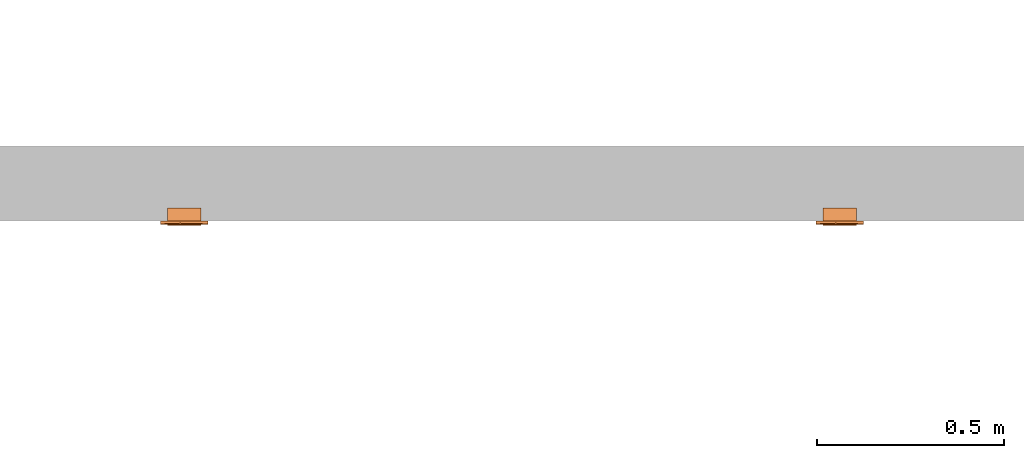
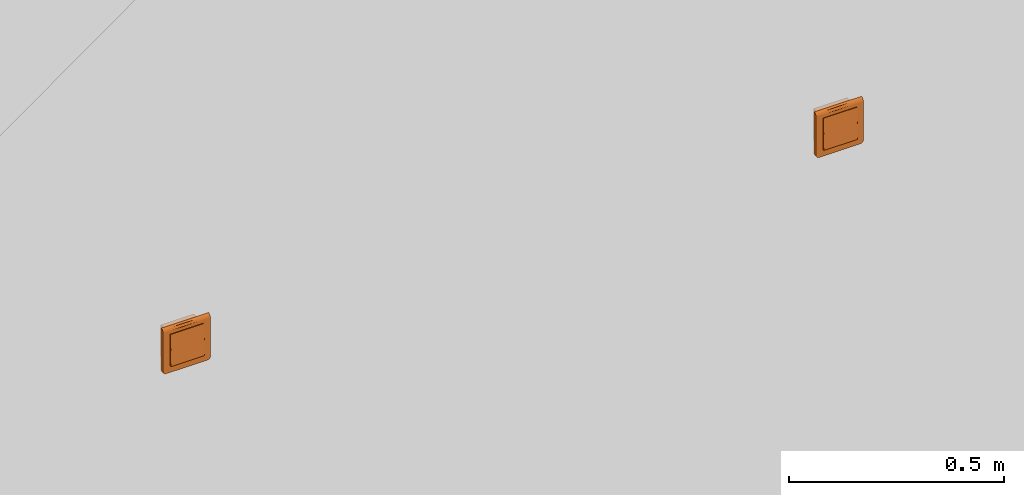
# One storey, part 184 of 197: 2 proxies.
"""IFC2X3 building model written with IfcOpenShell, lengths in metres."""

from ifc_helpers import new_model, entity, si_unit, converted_unit, direction, frame, origin, place, context, subcontext, project, spatial, faceted_brep, source, transform, mapped, material, material_list, type_object, type_shapes, element, save


model = new_model("IFC2X3")

# Units and contexts
model_context = context("Model", 3, precision=1e-05, world=origin(), true_north=direction((6.123031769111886e-17, 1.0)))
body_context = subcontext(model_context, "Body", "Model", "MODEL_VIEW")
ifc_project = project(units=[si_unit("LENGTHUNIT", "METRE"), converted_unit("PLANEANGLEUNIT", "DEGREE", entity("IfcPlaneAngleMeasure", 0.017453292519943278), si_unit("PLANEANGLEUNIT", "RADIAN"), dimensions=[0, 0, 0, 0, 0, 0, 0]), si_unit("AREAUNIT", "SQUARE_METRE")], contexts=[model_context])

# Site, building, storey
site_placement = place(None, origin())
site = spatial("IfcSite", under=ifc_project, at=site_placement, Name="Default", CompositionType="ELEMENT")
building_placement = place(site_placement, origin())
building = spatial("IfcBuilding", under=site, at=building_placement, CompositionType="ELEMENT")
storey_placement = place(building_placement, origin())
storey = spatial("IfcBuildingStorey", under=building, at=storey_placement, Name="Niveau 0", CompositionType="ELEMENT", Elevation=0.0)

# Proxies
ifc_material_1 = material(Name="<Unnamed>")
ifc_material_2 = material(Name="BETCE-DOIGT-BLANC")
ifc_material_3 = material(Name="BETCE-ENJOLIVEUR-BLANC")
ifc_material_list = material_list([ifc_material_1, ifc_material_2, ifc_material_3])
building_element_proxy_type_1 = type_object("IfcBuildingElementProxyType", Name="Tableau commande 2x4 modules encastré:7 SA + 1 VV", PredefinedType="NOTDEFINED", material=ifc_material_list)
shared_shape_1 = source(origin(), body_context, "Body", "Brep", [
    faceted_brep([(0.04499999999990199, 0.0, 0.0), (0.04499999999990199, 0.03499999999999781, 0.0), (0.022499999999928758, 0.03499999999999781, 0.0), (0.022499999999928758, 0.0, 0.0), (0.04499999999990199, 0.0, -0.045000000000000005), (0.022499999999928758, 0.0, -0.045000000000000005), (0.022499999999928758, 0.03499999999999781, -0.045000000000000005), (0.04499999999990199, 0.03499999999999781, -0.045000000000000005)], [[[0, 1, 2, 3]], [[4, 5, 6, 7]], [[1, 0, 4, 7]], [[2, 1, 7, 6]], [[3, 2, 6, 5]], [[0, 3, 5, 4]]]),
    faceted_brep([(0.04499999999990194, 0.0, 0.045000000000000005), (0.04499999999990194, 0.03499999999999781, 0.045000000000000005), (0.022499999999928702, 0.03499999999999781, 0.045000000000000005), (0.022499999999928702, 0.0, 0.045000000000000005), (0.04499999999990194, 0.0, 0.0), (0.022499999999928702, 0.0, 0.0), (0.022499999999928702, 0.03499999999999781, 0.0), (0.04499999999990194, 0.03499999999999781, 0.0)], [[[0, 1, 2, 3]], [[4, 5, 6, 7]], [[1, 0, 4, 7]], [[2, 1, 7, 6]], [[3, 2, 6, 5]], [[0, 3, 5, 4]]]),
    faceted_brep([(0.022499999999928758, 0.0, 0.0), (0.022499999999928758, 0.03499999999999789, 0.0), (0.0, 0.03499999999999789, 0.0), (0.0, 0.0, 0.0), (0.022499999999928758, 0.0, -0.045000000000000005), (0.0, 0.0, -0.045000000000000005), (0.0, 0.03499999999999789, -0.045000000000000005), (0.022499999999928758, 0.03499999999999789, -0.045000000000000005)], [[[0, 1, 2, 3]], [[4, 5, 6, 7]], [[1, 0, 4, 7]], [[2, 1, 7, 6]], [[3, 2, 6, 5]], [[0, 3, 5, 4]]]),
    faceted_brep([(0.0224999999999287, 0.0, 0.045000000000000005), (0.0224999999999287, 0.03499999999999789, 0.045000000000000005), (0.0, 0.03499999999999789, 0.045000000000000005), (0.0, 0.0, 0.045000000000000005), (0.0224999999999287, 0.0, 0.0), (0.0, 0.0, 0.0), (0.0, 0.03499999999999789, 0.0), (0.0224999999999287, 0.03499999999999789, 0.0)], [[[0, 1, 2, 3]], [[4, 5, 6, 7]], [[1, 0, 4, 7]], [[2, 1, 7, 6]], [[3, 2, 6, 5]], [[0, 3, 5, 4]]]),
    faceted_brep([(0.0, 0.0, 0.0), (0.0, 0.034999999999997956, 0.0), (-0.022500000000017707, 0.034999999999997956, 0.0), (-0.022500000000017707, 0.0, 0.0), (0.0, 0.0, -0.045000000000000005), (-0.022500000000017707, 0.0, -0.045000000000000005), (-0.022500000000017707, 0.034999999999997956, -0.045000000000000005), (0.0, 0.034999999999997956, -0.045000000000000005)], [[[0, 1, 2, 3]], [[4, 5, 6, 7]], [[1, 0, 4, 7]], [[2, 1, 7, 6]], [[3, 2, 6, 5]], [[0, 3, 5, 4]]]),
    faceted_brep([(0.0, 0.0, 0.045000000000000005), (0.0, 0.034999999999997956, 0.045000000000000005), (-0.022500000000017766, 0.034999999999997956, 0.045000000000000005), (-0.022500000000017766, 0.0, 0.045000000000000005), (0.0, 0.0, 0.0), (-0.022500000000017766, 0.0, 0.0), (-0.022500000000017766, 0.034999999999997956, 0.0), (0.0, 0.034999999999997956, 0.0)], [[[0, 1, 2, 3]], [[4, 5, 6, 7]], [[1, 0, 4, 7]], [[2, 1, 7, 6]], [[3, 2, 6, 5]], [[0, 3, 5, 4]]]),
    faceted_brep([(-0.02250000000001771, 0.0, 0.0), (-0.02250000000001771, 0.034999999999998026, 0.0), (-0.044999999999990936, 0.034999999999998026, 0.0), (-0.044999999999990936, 0.0, 0.0), (-0.02250000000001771, 0.0, -0.045000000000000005), (-0.044999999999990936, 0.0, -0.045000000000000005), (-0.044999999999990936, 0.034999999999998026, -0.045000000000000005), (-0.02250000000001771, 0.034999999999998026, -0.045000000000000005)], [[[0, 1, 2, 3]], [[4, 5, 6, 7]], [[1, 0, 4, 7]], [[2, 1, 7, 6]], [[3, 2, 6, 5]], [[0, 3, 5, 4]]]),
    faceted_brep([(-0.022500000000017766, 0.0, 0.045000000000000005), (-0.022500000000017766, 0.034999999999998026, 0.045000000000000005), (-0.044999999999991, 0.034999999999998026, 0.045000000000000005), (-0.044999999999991, 0.0, 0.045000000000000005), (-0.022500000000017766, 0.0, 0.0), (-0.044999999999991, 0.0, 0.0), (-0.044999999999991, 0.034999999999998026, 0.0), (-0.022500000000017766, 0.034999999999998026, 0.0)], [[[0, 1, 2, 3]], [[4, 5, 6, 7]], [[1, 0, 4, 7]], [[2, 1, 7, 6]], [[3, 2, 6, 5]], [[0, 3, 5, 4]]]),
    faceted_brep([(0.022499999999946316, 0.0, -0.045000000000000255), (0.022499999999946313, 0.0, 0.0), (0.04499999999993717, 0.0, 0.0), (0.04499999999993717, 0.0, -0.045000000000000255), (0.022499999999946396, -0.012750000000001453, -0.045000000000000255), (0.022499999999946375, -0.010500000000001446, 0.0), (0.044999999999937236, -0.010500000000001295, 0.0), (0.04499999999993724, -0.012750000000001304, -0.045000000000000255)], [[[0, 1, 2, 3]], [[1, 0, 4, 5]], [[2, 1, 5, 6]], [[3, 2, 6, 7]], [[0, 3, 7, 4]], [[5, 4, 7, 6]]]),
    faceted_brep([(0.0, 0.0, -0.04500000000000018), (0.0, 0.0, 0.0), (0.022499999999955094, 0.0, 0.0), (0.022499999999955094, 0.0, -0.04500000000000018), (0.0, -0.012750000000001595, -0.04500000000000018), (0.0, -0.010500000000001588, 0.0), (0.022499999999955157, -0.01050000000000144, 0.0), (0.022499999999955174, -0.012750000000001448, -0.04500000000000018)], [[[0, 1, 2, 3]], [[1, 0, 4, 5]], [[2, 1, 5, 6]], [[3, 2, 6, 7]], [[0, 3, 7, 4]], [[5, 4, 7, 6]]]),
    faceted_brep([(-0.022500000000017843, 0.0, -0.0450000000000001), (-0.022500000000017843, 0.0, 0.0), (0.0, 0.0, 0.0), (0.0, 0.0, -0.0450000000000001), (-0.02250000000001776, -0.012750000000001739, -0.0450000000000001), (-0.022500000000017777, -0.010500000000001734, 0.0), (0.0, -0.010500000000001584, 0.0), (0.0, -0.012750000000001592, -0.0450000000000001)], [[[0, 1, 2, 3]], [[1, 0, 4, 5]], [[2, 1, 5, 6]], [[3, 2, 6, 7]], [[0, 3, 7, 4]], [[5, 4, 7, 6]]]),
    faceted_brep([(-0.04499999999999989, 0.0, -0.045000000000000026), (-0.04499999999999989, 0.0, 0.0), (-0.022500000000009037, 0.0, 0.0), (-0.022500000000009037, 0.0, -0.045000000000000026), (-0.04499999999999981, -0.012750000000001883, -0.045000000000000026), (-0.04499999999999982, -0.010500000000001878, 0.0), (-0.022500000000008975, -0.01050000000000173, 0.0), (-0.022500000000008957, -0.012750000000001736, -0.045000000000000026)], [[[0, 1, 2, 3]], [[1, 0, 4, 5]], [[2, 1, 5, 6]], [[3, 2, 6, 7]], [[0, 3, 7, 4]], [[5, 4, 7, 6]]]),
    faceted_brep([(0.02249999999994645, -0.010500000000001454, 0.04499999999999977), (0.022499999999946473, -0.012750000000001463, 0.0), (0.04499999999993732, -0.012750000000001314, 0.0), (0.044999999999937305, -0.010500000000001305, 0.04499999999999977), (0.022499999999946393, 0.0, 0.0), (0.02249999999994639, 0.0, 0.04499999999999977), (0.04499999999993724, 0.0, 0.04499999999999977), (0.04499999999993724, 0.0, 0.0)], [[[0, 1, 2, 3]], [[4, 5, 6, 7]], [[5, 4, 1, 0]], [[6, 5, 0, 3]], [[7, 6, 3, 2]], [[4, 7, 2, 1]]]),
    faceted_brep([(0.0, -0.010500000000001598, 0.044999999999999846), (0.0, -0.012750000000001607, 0.0), (0.02249999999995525, -0.012750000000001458, 0.0), (0.022499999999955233, -0.010500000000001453, 0.044999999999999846), (0.0, 0.0, 0.0), (0.0, 0.0, 0.044999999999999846), (0.02249999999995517, 0.0, 0.04499999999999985), (0.02249999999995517, 0.0, 0.0)], [[[0, 1, 2, 3]], [[4, 5, 6, 7]], [[5, 4, 1, 0]], [[6, 5, 0, 3]], [[7, 6, 3, 2]], [[4, 7, 2, 1]]]),
    faceted_brep([(-0.0225000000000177, -0.010500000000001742, 0.04499999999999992), (-0.022500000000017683, -0.01275000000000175, 0.0), (0.0, -0.012750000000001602, 0.0), (0.0, -0.010500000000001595, 0.04499999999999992), (-0.022500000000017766, 0.0, 0.0), (-0.022500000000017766, 0.0, 0.04499999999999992), (0.0, 0.0, 0.04499999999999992), (0.0, 0.0, 0.0)], [[[0, 1, 2, 3]], [[4, 5, 6, 7]], [[5, 4, 1, 0]], [[6, 5, 0, 3]], [[7, 6, 3, 2]], [[4, 7, 2, 1]]]),
    faceted_brep([(-0.044999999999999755, -0.010500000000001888, 0.045), (-0.044999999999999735, -0.012750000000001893, 0.0), (-0.02250000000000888, -0.012750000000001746, 0.0), (-0.0225000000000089, -0.010500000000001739, 0.045), (-0.04499999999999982, 0.0, 0.0), (-0.04499999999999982, 0.0, 0.045), (-0.022500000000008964, 0.0, 0.045000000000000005), (-0.022500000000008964, 0.0, 0.0)], [[[0, 1, 2, 3]], [[4, 5, 6, 7]], [[5, 4, 1, 0]], [[6, 5, 0, 3]], [[7, 6, 3, 2]], [[4, 7, 2, 1]]]),
    faceted_brep([(0.06350000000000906, -0.009000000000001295, -0.055500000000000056), (0.06350000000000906, -0.009000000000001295, 0.05450000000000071), (0.045000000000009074, -0.00900000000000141, -0.045000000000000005), (0.055500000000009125, -0.009000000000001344, -0.06350000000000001), (0.057570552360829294, -0.009000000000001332, -0.06322740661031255), (0.06322740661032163, -0.009000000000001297, -0.05757055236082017), (0.04500000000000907, -0.00900000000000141, 0.045), (-0.044999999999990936, -0.00900000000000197, 0.045000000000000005), (-0.01112442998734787, -0.009000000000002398, 0.054500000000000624), (-0.06349999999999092, -0.009000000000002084, 0.05450000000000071), (-0.044999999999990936, -0.00900000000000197, -0.045000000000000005), (-0.06349999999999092, -0.009000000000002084, -0.05550000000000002), (-0.055499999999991, -0.009000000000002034, -0.06350000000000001), (-0.0575705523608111, -0.009000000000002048, -0.06322740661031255), (-0.06322740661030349, -0.009000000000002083, -0.05757055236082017), (-0.05949999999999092, -0.00900000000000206, -0.062428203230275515), (-0.062428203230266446, -0.009000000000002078, -0.05950000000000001), (-0.06115685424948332, -0.00900000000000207, -0.06115685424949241), (0.059500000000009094, -0.00900000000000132, -0.062428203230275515), (0.062428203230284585, -0.009000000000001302, -0.05949999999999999), (0.06115685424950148, -0.009000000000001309, -0.061156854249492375), (-0.063499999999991, 0.0, -0.05550000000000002), (-0.063499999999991, 0.0, 0.06350000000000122), (-0.044999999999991, 0.0, 0.045000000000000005), (-0.044999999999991, 0.0, -0.045000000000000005), (-0.055499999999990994, 0.0, -0.06350000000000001), (-0.06322740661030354, 0.0, -0.05757055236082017), (0.045000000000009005, 0.0, 0.045000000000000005), (0.011124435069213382, 0.0, 0.06350000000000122), (0.06350000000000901, 0.0, 0.0635), (0.06350000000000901, 0.0, -0.05550000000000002), (0.045000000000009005, 0.0, -0.045000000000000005), (0.05550000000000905, 0.0, -0.06350000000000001), (0.06322740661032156, 0.0, -0.05757055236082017), (0.057570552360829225, 0.0, -0.06322740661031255), (0.06242820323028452, 0.0, -0.05949999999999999), (0.05950000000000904, 0.0, -0.062428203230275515), (0.06115685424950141, 0.0, -0.061156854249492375), (-0.05757055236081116, 0.0, -0.06322740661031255), (-0.0624282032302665, 0.0, -0.05950000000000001), (-0.059499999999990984, 0.0, -0.062428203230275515), (-0.06115685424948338, 0.0, -0.06115685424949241), (0.06350000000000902, -0.00232937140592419, 0.06319333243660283), (0.06350000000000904, -0.004500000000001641, 0.06229422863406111), (0.06350000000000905, -0.006363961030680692, 0.06086396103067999), (0.06350000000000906, -0.007794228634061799, 0.05900000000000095), (0.06350000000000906, -0.008693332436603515, 0.056829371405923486), (-0.06349999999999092, -0.00869333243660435, 0.0568293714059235), (-0.06349999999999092, -0.007794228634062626, 0.059000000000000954), (-0.06349999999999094, -0.006363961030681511, 0.06086396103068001), (-0.06349999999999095, -0.004500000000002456, 0.062294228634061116), (-0.06349999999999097, -0.002329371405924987, 0.06319333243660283), (-0.010857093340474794, -0.006120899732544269, 0.06109807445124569)], [[[0, 1, 2]], [[3, 0, 2]], [[0, 3, 4]], [[5, 0, 4]], [[2, 1, 6]], [[1, 7, 6]], [[7, 1, 8]], [[7, 8, 9]], [[10, 7, 9]], [[11, 10, 9]], [[12, 10, 11]], [[12, 11, 13]], [[13, 11, 14]], [[15, 13, 14]], [[16, 15, 14]], [[15, 16, 17]], [[10, 12, 3]], [[2, 10, 3]], [[5, 4, 18]], [[5, 18, 19]], [[20, 19, 18]], [[21, 22, 23]], [[24, 21, 23]], [[25, 21, 24]], [[26, 21, 25]], [[22, 27, 23]], [[27, 22, 28]], [[27, 28, 29]], [[30, 27, 29]], [[31, 27, 30]], [[32, 31, 30]], [[32, 30, 33]], [[32, 33, 34]], [[33, 35, 34]], [[35, 36, 34]], [[36, 35, 37]], [[31, 32, 25]], [[26, 25, 38]], [[24, 31, 25]], [[39, 26, 38]], [[39, 38, 40]], [[41, 39, 40]], [[1, 0, 30, 29, 42, 43, 44, 45, 46]], [[33, 30, 0, 5]], [[35, 33, 5, 19]], [[37, 35, 19, 20]], [[36, 37, 20, 18]], [[34, 36, 18, 4]], [[32, 34, 4, 3]], [[25, 32, 3, 12]], [[38, 25, 12, 13]], [[40, 38, 13, 15]], [[41, 40, 15, 17]], [[39, 41, 17, 16]], [[26, 39, 16, 14]], [[21, 26, 14, 11]], [[22, 21, 11, 9, 47, 48, 49, 50, 51]], [[24, 23, 7, 10]], [[31, 24, 10, 2]], [[27, 31, 2, 6]], [[23, 27, 6, 7]], [[52, 8, 45]], [[47, 9, 8]], [[1, 46, 8]], [[44, 52, 45]], [[46, 45, 8]], [[50, 52, 51]], [[48, 47, 8]], [[28, 52, 43]], [[48, 52, 49]], [[42, 29, 28]], [[28, 22, 51]], [[48, 8, 52]], [[28, 43, 42]], [[44, 43, 52]], [[52, 50, 49]], [[52, 28, 51]]]),
])
type_shapes(building_element_proxy_type_1, [shared_shape_1])
proxy_1_placement = place(storey_placement, frame((-336.2517796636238, 122.781355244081, 1.1)))
element("IfcBuildingElementProxy", 1, at=proxy_1_placement, inside=storey, type_object=building_element_proxy_type_1, material=ifc_material_list, Name="Tableau commande 2x4 modules encastré:7 SA + 1 VV", ObjectType="Tableau commande 2x4 modules encastré:7 SA + 1 VV", context=body_context, shape_type="MappedRepresentation", body=[
    mapped(shared_shape_1, transform((0.0, 0.0, 0.0), scale=1.0)),
])
building_element_proxy_type_2 = type_object("IfcBuildingElementProxyType", Name="Tableau commande 2x4 modules encastré:2 BP + 2 SA + 4 VV", PredefinedType="NOTDEFINED", material=ifc_material_list)
shared_shape_2 = source(origin(), body_context, "Body", "Brep", [
    faceted_brep([(0.04499999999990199, 0.0, 0.0), (0.04499999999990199, 0.03499999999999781, 0.0), (0.022499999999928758, 0.03499999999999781, 0.0), (0.022499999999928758, 0.0, 0.0), (0.04499999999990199, 0.0, -0.045000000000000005), (0.022499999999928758, 0.0, -0.045000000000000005), (0.022499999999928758, 0.03499999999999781, -0.045000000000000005), (0.04499999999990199, 0.03499999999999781, -0.045000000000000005)], [[[0, 1, 2, 3]], [[4, 5, 6, 7]], [[1, 0, 4, 7]], [[2, 1, 7, 6]], [[3, 2, 6, 5]], [[0, 3, 5, 4]]]),
    faceted_brep([(0.04499999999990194, 0.0, 0.045000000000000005), (0.04499999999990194, 0.03499999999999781, 0.045000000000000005), (0.022499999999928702, 0.03499999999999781, 0.045000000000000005), (0.022499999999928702, 0.0, 0.045000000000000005), (0.04499999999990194, 0.0, 0.0), (0.022499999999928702, 0.0, 0.0), (0.022499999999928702, 0.03499999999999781, 0.0), (0.04499999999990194, 0.03499999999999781, 0.0)], [[[0, 1, 2, 3]], [[4, 5, 6, 7]], [[1, 0, 4, 7]], [[2, 1, 7, 6]], [[3, 2, 6, 5]], [[0, 3, 5, 4]]]),
    faceted_brep([(0.022499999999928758, 0.0, 0.0), (0.022499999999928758, 0.03499999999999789, 0.0), (0.0, 0.03499999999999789, 0.0), (0.0, 0.0, 0.0), (0.022499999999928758, 0.0, -0.045000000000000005), (0.0, 0.0, -0.045000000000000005), (0.0, 0.03499999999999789, -0.045000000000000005), (0.022499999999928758, 0.03499999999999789, -0.045000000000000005)], [[[0, 1, 2, 3]], [[4, 5, 6, 7]], [[1, 0, 4, 7]], [[2, 1, 7, 6]], [[3, 2, 6, 5]], [[0, 3, 5, 4]]]),
    faceted_brep([(0.0224999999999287, 0.0, 0.045000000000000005), (0.0224999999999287, 0.03499999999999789, 0.045000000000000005), (0.0, 0.03499999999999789, 0.045000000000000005), (0.0, 0.0, 0.045000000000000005), (0.0224999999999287, 0.0, 0.0), (0.0, 0.0, 0.0), (0.0, 0.03499999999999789, 0.0), (0.0224999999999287, 0.03499999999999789, 0.0)], [[[0, 1, 2, 3]], [[4, 5, 6, 7]], [[1, 0, 4, 7]], [[2, 1, 7, 6]], [[3, 2, 6, 5]], [[0, 3, 5, 4]]]),
    faceted_brep([(0.0, 0.0, 0.0), (0.0, 0.034999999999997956, 0.0), (-0.022500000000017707, 0.034999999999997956, 0.0), (-0.022500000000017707, 0.0, 0.0), (0.0, 0.0, -0.045000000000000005), (-0.022500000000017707, 0.0, -0.045000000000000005), (-0.022500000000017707, 0.034999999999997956, -0.045000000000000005), (0.0, 0.034999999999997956, -0.045000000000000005)], [[[0, 1, 2, 3]], [[4, 5, 6, 7]], [[1, 0, 4, 7]], [[2, 1, 7, 6]], [[3, 2, 6, 5]], [[0, 3, 5, 4]]]),
    faceted_brep([(0.0, 0.0, 0.045000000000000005), (0.0, 0.034999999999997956, 0.045000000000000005), (-0.022500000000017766, 0.034999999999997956, 0.045000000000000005), (-0.022500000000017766, 0.0, 0.045000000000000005), (0.0, 0.0, 0.0), (-0.022500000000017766, 0.0, 0.0), (-0.022500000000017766, 0.034999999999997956, 0.0), (0.0, 0.034999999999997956, 0.0)], [[[0, 1, 2, 3]], [[4, 5, 6, 7]], [[1, 0, 4, 7]], [[2, 1, 7, 6]], [[3, 2, 6, 5]], [[0, 3, 5, 4]]]),
    faceted_brep([(-0.02250000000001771, 0.0, 0.0), (-0.02250000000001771, 0.034999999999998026, 0.0), (-0.044999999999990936, 0.034999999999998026, 0.0), (-0.044999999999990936, 0.0, 0.0), (-0.02250000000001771, 0.0, -0.045000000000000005), (-0.044999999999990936, 0.0, -0.045000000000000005), (-0.044999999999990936, 0.034999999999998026, -0.045000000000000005), (-0.02250000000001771, 0.034999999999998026, -0.045000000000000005)], [[[0, 1, 2, 3]], [[4, 5, 6, 7]], [[1, 0, 4, 7]], [[2, 1, 7, 6]], [[3, 2, 6, 5]], [[0, 3, 5, 4]]]),
    faceted_brep([(-0.022500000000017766, 0.0, 0.045000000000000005), (-0.022500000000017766, 0.034999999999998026, 0.045000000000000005), (-0.044999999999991, 0.034999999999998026, 0.045000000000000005), (-0.044999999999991, 0.0, 0.045000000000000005), (-0.022500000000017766, 0.0, 0.0), (-0.044999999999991, 0.0, 0.0), (-0.044999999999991, 0.034999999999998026, 0.0), (-0.022500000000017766, 0.034999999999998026, 0.0)], [[[0, 1, 2, 3]], [[4, 5, 6, 7]], [[1, 0, 4, 7]], [[2, 1, 7, 6]], [[3, 2, 6, 5]], [[0, 3, 5, 4]]]),
    faceted_brep([(0.022499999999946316, 0.0, -0.045000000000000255), (0.022499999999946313, 0.0, 0.0), (0.04499999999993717, 0.0, 0.0), (0.04499999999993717, 0.0, -0.045000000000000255), (0.022499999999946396, -0.012750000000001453, -0.045000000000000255), (0.022499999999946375, -0.010500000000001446, 0.0), (0.044999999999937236, -0.010500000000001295, 0.0), (0.04499999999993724, -0.012750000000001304, -0.045000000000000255)], [[[0, 1, 2, 3]], [[1, 0, 4, 5]], [[2, 1, 5, 6]], [[3, 2, 6, 7]], [[0, 3, 7, 4]], [[5, 4, 7, 6]]]),
    faceted_brep([(0.0, 0.0, -0.04500000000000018), (0.0, 0.0, 0.0), (0.022499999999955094, 0.0, 0.0), (0.022499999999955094, 0.0, -0.04500000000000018), (0.0, -0.012750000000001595, -0.04500000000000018), (0.0, -0.010500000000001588, 0.0), (0.022499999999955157, -0.01050000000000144, 0.0), (0.022499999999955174, -0.012750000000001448, -0.04500000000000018)], [[[0, 1, 2, 3]], [[1, 0, 4, 5]], [[2, 1, 5, 6]], [[3, 2, 6, 7]], [[0, 3, 7, 4]], [[5, 4, 7, 6]]]),
    faceted_brep([(-0.022500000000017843, 0.0, -0.0450000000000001), (-0.022500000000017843, 0.0, 0.0), (0.0, 0.0, 0.0), (0.0, 0.0, -0.0450000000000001), (-0.02250000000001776, -0.012750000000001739, -0.0450000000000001), (-0.022500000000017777, -0.010500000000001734, 0.0), (0.0, -0.010500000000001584, 0.0), (0.0, -0.012750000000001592, -0.0450000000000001)], [[[0, 1, 2, 3]], [[1, 0, 4, 5]], [[2, 1, 5, 6]], [[3, 2, 6, 7]], [[0, 3, 7, 4]], [[5, 4, 7, 6]]]),
    faceted_brep([(-0.04499999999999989, 0.0, -0.045000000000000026), (-0.04499999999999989, 0.0, 0.0), (-0.022500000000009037, 0.0, 0.0), (-0.022500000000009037, 0.0, -0.045000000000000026), (-0.04499999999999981, -0.012750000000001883, -0.045000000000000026), (-0.04499999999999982, -0.010500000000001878, 0.0), (-0.022500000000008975, -0.01050000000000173, 0.0), (-0.022500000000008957, -0.012750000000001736, -0.045000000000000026)], [[[0, 1, 2, 3]], [[1, 0, 4, 5]], [[2, 1, 5, 6]], [[3, 2, 6, 7]], [[0, 3, 7, 4]], [[5, 4, 7, 6]]]),
    faceted_brep([(0.02249999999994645, -0.010500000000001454, 0.04499999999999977), (0.022499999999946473, -0.012750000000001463, 0.0), (0.04499999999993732, -0.012750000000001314, 0.0), (0.044999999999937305, -0.010500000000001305, 0.04499999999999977), (0.022499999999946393, 0.0, 0.0), (0.02249999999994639, 0.0, 0.04499999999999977), (0.04499999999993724, 0.0, 0.04499999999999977), (0.04499999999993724, 0.0, 0.0)], [[[0, 1, 2, 3]], [[4, 5, 6, 7]], [[5, 4, 1, 0]], [[6, 5, 0, 3]], [[7, 6, 3, 2]], [[4, 7, 2, 1]]]),
    faceted_brep([(0.0, -0.010500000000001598, 0.044999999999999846), (0.0, -0.012750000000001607, 0.0), (0.02249999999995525, -0.012750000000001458, 0.0), (0.022499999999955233, -0.010500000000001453, 0.044999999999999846), (0.0, 0.0, 0.0), (0.0, 0.0, 0.044999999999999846), (0.02249999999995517, 0.0, 0.04499999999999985), (0.02249999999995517, 0.0, 0.0)], [[[0, 1, 2, 3]], [[4, 5, 6, 7]], [[5, 4, 1, 0]], [[6, 5, 0, 3]], [[7, 6, 3, 2]], [[4, 7, 2, 1]]]),
    faceted_brep([(-0.0225000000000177, -0.010500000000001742, 0.04499999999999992), (-0.022500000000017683, -0.01275000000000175, 0.0), (0.0, -0.012750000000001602, 0.0), (0.0, -0.010500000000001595, 0.04499999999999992), (-0.022500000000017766, 0.0, 0.0), (-0.022500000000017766, 0.0, 0.04499999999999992), (0.0, 0.0, 0.04499999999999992), (0.0, 0.0, 0.0)], [[[0, 1, 2, 3]], [[4, 5, 6, 7]], [[5, 4, 1, 0]], [[6, 5, 0, 3]], [[7, 6, 3, 2]], [[4, 7, 2, 1]]]),
    faceted_brep([(-0.044999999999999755, -0.010500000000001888, 0.045), (-0.044999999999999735, -0.012750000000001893, 0.0), (-0.02250000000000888, -0.012750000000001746, 0.0), (-0.0225000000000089, -0.010500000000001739, 0.045), (-0.04499999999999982, 0.0, 0.0), (-0.04499999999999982, 0.0, 0.045), (-0.022500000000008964, 0.0, 0.045000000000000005), (-0.022500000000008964, 0.0, 0.0)], [[[0, 1, 2, 3]], [[4, 5, 6, 7]], [[5, 4, 1, 0]], [[6, 5, 0, 3]], [[7, 6, 3, 2]], [[4, 7, 2, 1]]]),
    faceted_brep([(0.06350000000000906, -0.009000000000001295, -0.055500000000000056), (0.06350000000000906, -0.009000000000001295, 0.05450000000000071), (0.045000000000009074, -0.00900000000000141, -0.045000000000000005), (0.055500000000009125, -0.009000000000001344, -0.06350000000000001), (0.057570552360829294, -0.009000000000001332, -0.06322740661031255), (0.06322740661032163, -0.009000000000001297, -0.05757055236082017), (0.04500000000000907, -0.00900000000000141, 0.045), (-0.044999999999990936, -0.00900000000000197, 0.045000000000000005), (-0.01112442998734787, -0.009000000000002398, 0.054500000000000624), (-0.06349999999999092, -0.009000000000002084, 0.05450000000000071), (-0.044999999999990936, -0.00900000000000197, -0.045000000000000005), (-0.06349999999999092, -0.009000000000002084, -0.05550000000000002), (-0.055499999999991, -0.009000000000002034, -0.06350000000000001), (-0.0575705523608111, -0.009000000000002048, -0.06322740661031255), (-0.06322740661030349, -0.009000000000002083, -0.05757055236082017), (-0.05949999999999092, -0.00900000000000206, -0.062428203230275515), (-0.062428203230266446, -0.009000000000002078, -0.05950000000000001), (-0.06115685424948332, -0.00900000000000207, -0.06115685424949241), (0.059500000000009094, -0.00900000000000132, -0.062428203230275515), (0.062428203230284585, -0.009000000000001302, -0.05949999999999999), (0.06115685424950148, -0.009000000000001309, -0.061156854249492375), (-0.063499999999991, 0.0, -0.05550000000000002), (-0.063499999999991, 0.0, 0.06350000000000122), (-0.044999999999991, 0.0, 0.045000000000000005), (-0.044999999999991, 0.0, -0.045000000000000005), (-0.055499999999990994, 0.0, -0.06350000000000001), (-0.06322740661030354, 0.0, -0.05757055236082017), (0.045000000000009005, 0.0, 0.045000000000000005), (0.011124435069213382, 0.0, 0.06350000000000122), (0.06350000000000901, 0.0, 0.0635), (0.06350000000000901, 0.0, -0.05550000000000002), (0.045000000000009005, 0.0, -0.045000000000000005), (0.05550000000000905, 0.0, -0.06350000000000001), (0.06322740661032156, 0.0, -0.05757055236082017), (0.057570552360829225, 0.0, -0.06322740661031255), (0.06242820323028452, 0.0, -0.05949999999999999), (0.05950000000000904, 0.0, -0.062428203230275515), (0.06115685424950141, 0.0, -0.061156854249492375), (-0.05757055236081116, 0.0, -0.06322740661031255), (-0.0624282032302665, 0.0, -0.05950000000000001), (-0.059499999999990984, 0.0, -0.062428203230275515), (-0.06115685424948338, 0.0, -0.06115685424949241), (0.06350000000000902, -0.00232937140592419, 0.06319333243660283), (0.06350000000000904, -0.004500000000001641, 0.06229422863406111), (0.06350000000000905, -0.006363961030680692, 0.06086396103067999), (0.06350000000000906, -0.007794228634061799, 0.05900000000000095), (0.06350000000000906, -0.008693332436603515, 0.056829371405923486), (-0.06349999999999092, -0.00869333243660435, 0.0568293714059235), (-0.06349999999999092, -0.007794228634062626, 0.059000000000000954), (-0.06349999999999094, -0.006363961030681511, 0.06086396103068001), (-0.06349999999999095, -0.004500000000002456, 0.062294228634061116), (-0.06349999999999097, -0.002329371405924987, 0.06319333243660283), (-0.010857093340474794, -0.006120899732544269, 0.06109807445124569)], [[[0, 1, 2]], [[3, 0, 2]], [[0, 3, 4]], [[5, 0, 4]], [[2, 1, 6]], [[1, 7, 6]], [[7, 1, 8]], [[7, 8, 9]], [[10, 7, 9]], [[11, 10, 9]], [[12, 10, 11]], [[12, 11, 13]], [[13, 11, 14]], [[15, 13, 14]], [[16, 15, 14]], [[15, 16, 17]], [[10, 12, 3]], [[2, 10, 3]], [[5, 4, 18]], [[5, 18, 19]], [[20, 19, 18]], [[21, 22, 23]], [[24, 21, 23]], [[25, 21, 24]], [[26, 21, 25]], [[22, 27, 23]], [[27, 22, 28]], [[27, 28, 29]], [[30, 27, 29]], [[31, 27, 30]], [[32, 31, 30]], [[32, 30, 33]], [[32, 33, 34]], [[33, 35, 34]], [[35, 36, 34]], [[36, 35, 37]], [[31, 32, 25]], [[26, 25, 38]], [[24, 31, 25]], [[39, 26, 38]], [[39, 38, 40]], [[41, 39, 40]], [[1, 0, 30, 29, 42, 43, 44, 45, 46]], [[33, 30, 0, 5]], [[35, 33, 5, 19]], [[37, 35, 19, 20]], [[36, 37, 20, 18]], [[34, 36, 18, 4]], [[32, 34, 4, 3]], [[25, 32, 3, 12]], [[38, 25, 12, 13]], [[40, 38, 13, 15]], [[41, 40, 15, 17]], [[39, 41, 17, 16]], [[26, 39, 16, 14]], [[21, 26, 14, 11]], [[22, 21, 11, 9, 47, 48, 49, 50, 51]], [[24, 23, 7, 10]], [[31, 24, 10, 2]], [[27, 31, 2, 6]], [[23, 27, 6, 7]], [[52, 8, 45]], [[47, 9, 8]], [[1, 46, 8]], [[44, 52, 45]], [[46, 45, 8]], [[50, 52, 51]], [[48, 47, 8]], [[28, 52, 43]], [[48, 52, 49]], [[42, 29, 28]], [[28, 22, 51]], [[48, 8, 52]], [[28, 43, 42]], [[44, 43, 52]], [[52, 50, 49]], [[52, 28, 51]]]),
])
type_shapes(building_element_proxy_type_2, [shared_shape_2])
proxy_2_placement = place(storey_placement, frame((-334.49877966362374, 122.781355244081, 1.1)))
element("IfcBuildingElementProxy", 2, at=proxy_2_placement, inside=storey, type_object=building_element_proxy_type_2, material=ifc_material_list, Name="Tableau commande 2x4 modules encastré:2 BP + 2 SA + 4 VV", ObjectType="Tableau commande 2x4 modules encastré:2 BP + 2 SA + 4 VV", context=body_context, shape_type="MappedRepresentation", body=[
    mapped(shared_shape_2, transform((0.0, 0.0, 0.0), scale=1.0)),
])

save(model, "model.ifc")
